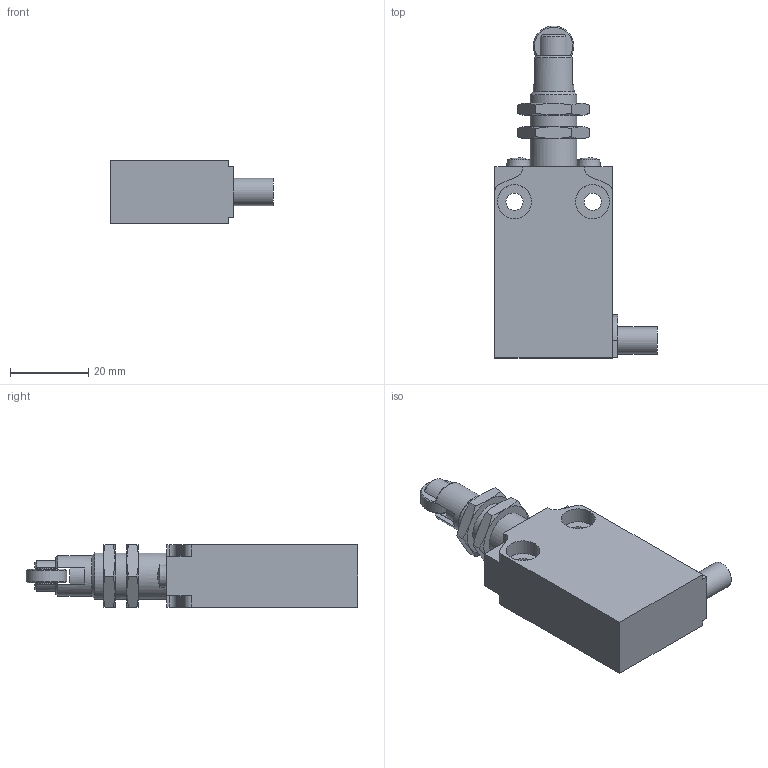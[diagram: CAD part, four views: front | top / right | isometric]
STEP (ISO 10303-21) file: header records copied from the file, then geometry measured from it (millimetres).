
FILE_DESCRIPTION(/* description */ (''),/* implementation_level */ '2;1');
FILE_NAME(/* name */ 'C:\Users\servizio.tecnico\Desktop\CADENAS\3D\EP1_STP\STP_EP1_G22U.stp',/* time_stamp */ '2017-08-31T16:29:02+02:00',/* author */ ('servizio.tecnico'),/* organization */ (''),/* preprocessor_version */ 'ST-DEVELOPER v16.1',/* originating_system */ 'Autodesk Inventor 2016',/* authorisation */ '');
FILE_SCHEMA (('AUTOMOTIVE_DESIGN { 1 0 10303 214 3 1 1 }'));
Length unit declared in the file: millimetre
Products named in the file (3): Product; EP1G22; BASE ASSI 
Assembly tree (2 placements, depth 3):
  BASE ASSI 
    EP1G22
      Product
Bounding box: 41.5 x 85 x 16 mm (x, y, z)
Volume: 26228.9 mm3; surface area: 11042.3 mm2
Topology: 6 solids, 6 shells, 151 faces, 362 edges, 229 vertices
Faces by surface type: plane 77, cone 37, cylinder 33, sphere 2, torus 2
Full cylindrical faces by diameter (mm): 4.4 x2, 5.6 x2, 7 x1, 7.95 x1, 8.05 x1, 8.7 x4, 10.4 x1, 10.5 x1, 12 x3
Entity records: 4209 total; most frequent: CARTESIAN_POINT 828, DIRECTION 698, ORIENTED_EDGE 652, EDGE_CURVE 326, AXIS2_PLACEMENT_3D 280, VERTEX_POINT 218, EDGE_LOOP 190, FACE_OUTER_BOUND 151
